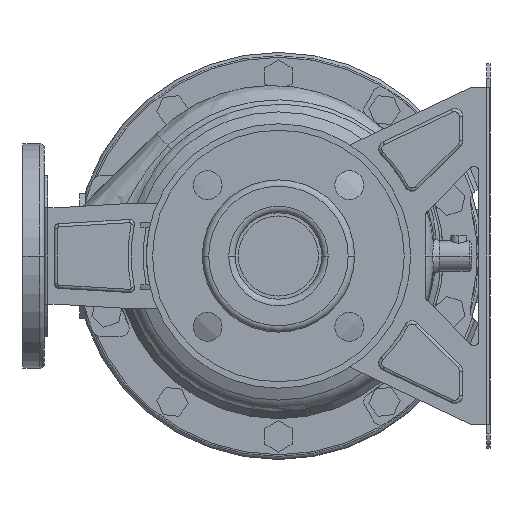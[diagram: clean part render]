
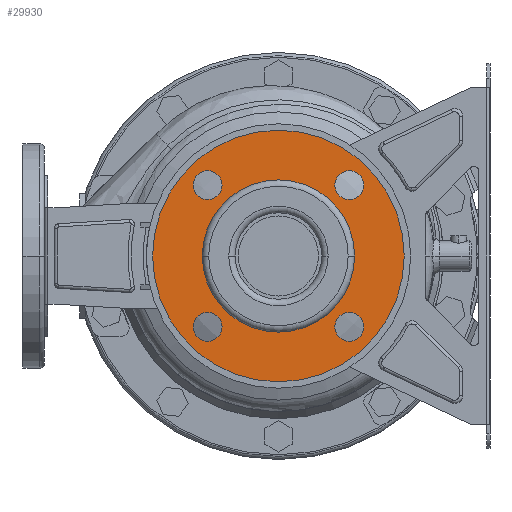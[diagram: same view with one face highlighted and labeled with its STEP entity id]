
A CAD part, left-side view. The second image highlights one B-rep face of the part: STEP entity #29930.
In plain terms, the highlighted planar face has unit normal (-1, 0, 0).
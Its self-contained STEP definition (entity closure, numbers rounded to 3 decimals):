
#29263=CARTESIAN_POINT('',(12.,0.,0.));
#29264=DIRECTION('',(-1.,0.,0.));
#29265=DIRECTION('',(0.,1.,0.));
#29266=AXIS2_PLACEMENT_3D('',#29263,#29264,#29265);
#29271=CARTESIAN_POINT('',(12.,0.,0.));
#29272=DIRECTION('',(1.,0.,0.));
#29273=DIRECTION('',(0.,1.,0.));
#29274=AXIS2_PLACEMENT_3D('',#29271,#29272,#29273);
#29279=CARTESIAN_POINT('',(12.,-44.194,44.194));
#29280=DIRECTION('',(1.,0.,0.));
#29281=DIRECTION('',(0.,1.,0.));
#29282=AXIS2_PLACEMENT_3D('',#29279,#29280,#29281);
#29287=CARTESIAN_POINT('',(12.,-44.194,44.194));
#29288=DIRECTION('',(1.,0.,0.));
#29289=DIRECTION('',(0.,-1.,0.));
#29290=AXIS2_PLACEMENT_3D('',#29287,#29288,#29289);
#29295=CARTESIAN_POINT('',(12.,-44.194,-44.194));
#29296=DIRECTION('',(1.,0.,0.));
#29297=DIRECTION('',(0.,0.,1.));
#29298=AXIS2_PLACEMENT_3D('',#29295,#29296,#29297);
#29303=CARTESIAN_POINT('',(12.,-44.194,-44.194));
#29304=DIRECTION('',(1.,0.,0.));
#29305=DIRECTION('',(0.,0.,-1.));
#29306=AXIS2_PLACEMENT_3D('',#29303,#29304,#29305);
#29311=CARTESIAN_POINT('',(12.,44.194,-44.194));
#29312=DIRECTION('',(1.,0.,0.));
#29313=DIRECTION('',(0.,-1.,0.));
#29314=AXIS2_PLACEMENT_3D('',#29311,#29312,#29313);
#29319=CARTESIAN_POINT('',(12.,44.194,-44.194));
#29320=DIRECTION('',(1.,0.,0.));
#29321=DIRECTION('',(0.,1.,0.));
#29322=AXIS2_PLACEMENT_3D('',#29319,#29320,#29321);
#29327=CARTESIAN_POINT('',(12.,44.194,44.194));
#29328=DIRECTION('',(1.,0.,0.));
#29329=DIRECTION('',(0.,0.,-1.));
#29330=AXIS2_PLACEMENT_3D('',#29327,#29328,#29329);
#29335=CARTESIAN_POINT('',(12.,44.194,44.194));
#29336=DIRECTION('',(1.,0.,0.));
#29337=DIRECTION('',(0.,0.,1.));
#29338=AXIS2_PLACEMENT_3D('',#29335,#29336,#29337);
#29343=CARTESIAN_POINT('',(12.,0.,0.));
#29344=DIRECTION('',(1.,0.,0.));
#29345=DIRECTION('',(0.,1.,0.));
#29346=AXIS2_PLACEMENT_3D('',#29343,#29344,#29345);
#29365=CARTESIAN_POINT('',(12.,0.,0.));
#29366=DIRECTION('',(-1.,0.,0.));
#29367=DIRECTION('',(0.,1.,0.));
#29368=AXIS2_PLACEMENT_3D('',#29365,#29366,#29367);
#29530=CARTESIAN_POINT('',(12.,78.5,0.));
#29532=VERTEX_POINT('',#29530);
#29533=CARTESIAN_POINT('',(12.,47.5,0.));
#29535=VERTEX_POINT('',#29533);
#29562=CARTESIAN_POINT('',(12.,-78.5,0.));
#29564=VERTEX_POINT('',#29562);
#29565=CARTESIAN_POINT('',(12.,-47.5,0.));
#29567=VERTEX_POINT('',#29565);
#29577=CARTESIAN_POINT('',(12.,-35.194,44.194));
#29578=CARTESIAN_POINT('',(12.,-53.194,44.194));
#29579=VERTEX_POINT('',#29577);
#29580=VERTEX_POINT('',#29578);
#29585=CARTESIAN_POINT('',(12.,-44.194,-35.194));
#29586=CARTESIAN_POINT('',(12.,-44.194,-53.194));
#29587=VERTEX_POINT('',#29585);
#29588=VERTEX_POINT('',#29586);
#29593=CARTESIAN_POINT('',(12.,35.194,-44.194));
#29594=CARTESIAN_POINT('',(12.,53.194,-44.194));
#29595=VERTEX_POINT('',#29593);
#29596=VERTEX_POINT('',#29594);
#29601=CARTESIAN_POINT('',(12.,44.194,35.194));
#29602=CARTESIAN_POINT('',(12.,44.194,53.194));
#29603=VERTEX_POINT('',#29601);
#29604=VERTEX_POINT('',#29602);
#29891=CARTESIAN_POINT('',(12.,0.,0.));
#29892=DIRECTION('',(1.,0.,0.));
#29893=DIRECTION('',(0.,-1.,0.));
#29894=AXIS2_PLACEMENT_3D('',#29891,#29892,#29893);
#29895=PLANE('',#29894);
#29896=ORIENTED_EDGE('',*,*,#29884,.F.);
#29897=ORIENTED_EDGE('',*,*,#29873,.T.);
#29898=EDGE_LOOP('',(#29896,#29897));
#29899=FACE_OUTER_BOUND('',#29898,.F.);
#29901=ORIENTED_EDGE('',*,*,#29900,.F.);
#29903=ORIENTED_EDGE('',*,*,#29902,.T.);
#29904=EDGE_LOOP('',(#29901,#29903));
#29905=FACE_BOUND('',#29904,.F.);
#29907=ORIENTED_EDGE('',*,*,#29906,.F.);
#29909=ORIENTED_EDGE('',*,*,#29908,.F.);
#29910=EDGE_LOOP('',(#29907,#29909));
#29911=FACE_BOUND('',#29910,.F.);
#29913=ORIENTED_EDGE('',*,*,#29912,.F.);
#29915=ORIENTED_EDGE('',*,*,#29914,.F.);
#29916=EDGE_LOOP('',(#29913,#29915));
#29917=FACE_BOUND('',#29916,.F.);
#29919=ORIENTED_EDGE('',*,*,#29918,.F.);
#29921=ORIENTED_EDGE('',*,*,#29920,.F.);
#29922=EDGE_LOOP('',(#29919,#29921));
#29923=FACE_BOUND('',#29922,.F.);
#29925=ORIENTED_EDGE('',*,*,#29924,.F.);
#29927=ORIENTED_EDGE('',*,*,#29926,.F.);
#29928=EDGE_LOOP('',(#29925,#29927));
#29929=FACE_BOUND('',#29928,.F.);
#29267=CIRCLE('',#29266,78.5);
#29275=CIRCLE('',#29274,78.5);
#29283=CIRCLE('',#29282,9.);
#29291=CIRCLE('',#29290,9.);
#29299=CIRCLE('',#29298,9.);
#29307=CIRCLE('',#29306,9.);
#29315=CIRCLE('',#29314,9.);
#29323=CIRCLE('',#29322,9.);
#29331=CIRCLE('',#29330,9.);
#29339=CIRCLE('',#29338,9.);
#29347=CIRCLE('',#29346,47.5);
#29369=CIRCLE('',#29368,47.5);
#29873=EDGE_CURVE('',#29532,#29564,#29275,.T.);
#29884=EDGE_CURVE('',#29532,#29564,#29267,.T.);
#29900=EDGE_CURVE('',#29535,#29567,#29347,.T.);
#29902=EDGE_CURVE('',#29535,#29567,#29369,.T.);
#29906=EDGE_CURVE('',#29579,#29580,#29283,.T.);
#29908=EDGE_CURVE('',#29580,#29579,#29291,.T.);
#29912=EDGE_CURVE('',#29587,#29588,#29299,.T.);
#29914=EDGE_CURVE('',#29588,#29587,#29307,.T.);
#29918=EDGE_CURVE('',#29595,#29596,#29315,.T.);
#29920=EDGE_CURVE('',#29596,#29595,#29323,.T.);
#29924=EDGE_CURVE('',#29603,#29604,#29331,.T.);
#29926=EDGE_CURVE('',#29604,#29603,#29339,.T.);
#29930=ADVANCED_FACE('',(#29899,#29905,#29911,#29917,#29923,#29929),#29895,.F.);
